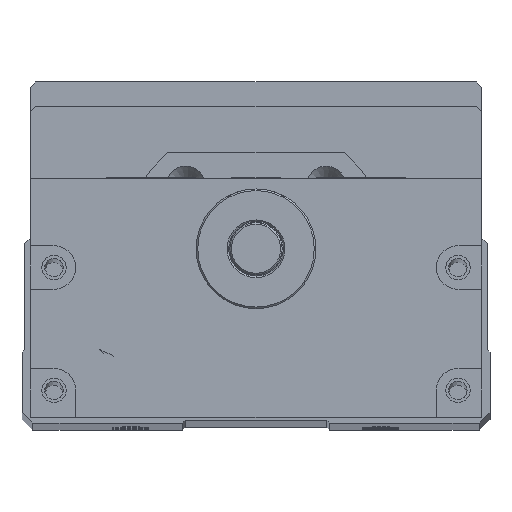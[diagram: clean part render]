
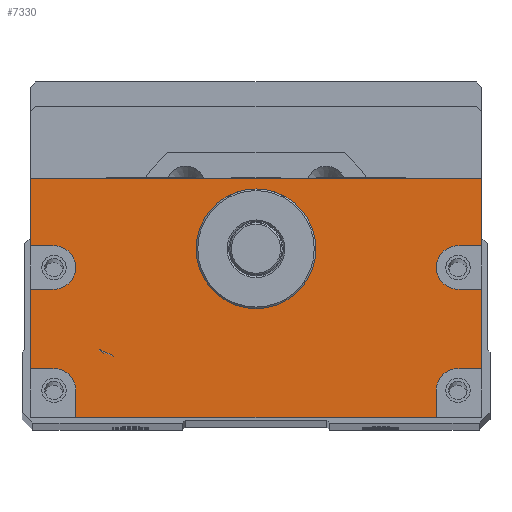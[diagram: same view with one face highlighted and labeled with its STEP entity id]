
A CAD part, top view. The second image highlights one B-rep face of the part: STEP entity #7330.
In plain terms, the highlighted planar face has unit normal (0, 0, 1).
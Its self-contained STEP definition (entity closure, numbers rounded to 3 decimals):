
#578=LINE('',#28951,#1321);
#580=LINE('',#28955,#1323);
#581=LINE('',#28958,#1324);
#582=LINE('',#28960,#1325);
#583=LINE('',#28964,#1326);
#584=LINE('',#28966,#1327);
#585=LINE('',#28967,#1328);
#586=LINE('',#28969,#1329);
#587=LINE('',#28973,#1330);
#588=LINE('',#28975,#1331);
#589=LINE('',#28977,#1332);
#590=LINE('',#28981,#1333);
#591=LINE('',#28983,#1334);
#592=LINE('',#28985,#1335);
#1321=VECTOR('',#17357,1.);
#1323=VECTOR('',#17361,1.);
#1324=VECTOR('',#17362,1.);
#1325=VECTOR('',#17363,1.);
#1326=VECTOR('',#17366,1.);
#1327=VECTOR('',#17367,1.);
#1328=VECTOR('',#17368,1.);
#1329=VECTOR('',#17369,1.);
#1330=VECTOR('',#17372,1.);
#1331=VECTOR('',#17373,1.);
#1332=VECTOR('',#17374,1.);
#1333=VECTOR('',#17377,1.);
#1334=VECTOR('',#17378,1.);
#1335=VECTOR('',#17379,1.);
#7330=ADVANCED_FACE('',(#8268,#8269),#7856,.T.);
#7856=PLANE('',#15776);
#8268=FACE_BOUND('',#8906,.T.);
#8269=FACE_BOUND('',#8907,.T.);
#8906=EDGE_LOOP('',(#10456,#10457,#10458,#10459,#10460,#10461,#10462,#10463,
#10464,#10465,#10466,#10467,#10468,#10469,#10470,#10471,#10472,#10473));
#8907=EDGE_LOOP('',(#10474));
#10456=ORIENTED_EDGE('',*,*,#13991,.F.);
#10457=ORIENTED_EDGE('',*,*,#13992,.T.);
#10458=ORIENTED_EDGE('',*,*,#13993,.F.);
#10459=ORIENTED_EDGE('',*,*,#13994,.F.);
#10460=ORIENTED_EDGE('',*,*,#13995,.F.);
#10461=ORIENTED_EDGE('',*,*,#13996,.T.);
#10462=ORIENTED_EDGE('',*,*,#13989,.T.);
#10463=ORIENTED_EDGE('',*,*,#13997,.T.);
#10464=ORIENTED_EDGE('',*,*,#13998,.F.);
#10465=ORIENTED_EDGE('',*,*,#13999,.F.);
#10466=ORIENTED_EDGE('',*,*,#14000,.F.);
#10467=ORIENTED_EDGE('',*,*,#14001,.T.);
#10468=ORIENTED_EDGE('',*,*,#14002,.F.);
#10469=ORIENTED_EDGE('',*,*,#14003,.F.);
#10470=ORIENTED_EDGE('',*,*,#14004,.F.);
#10471=ORIENTED_EDGE('',*,*,#14005,.T.);
#10472=ORIENTED_EDGE('',*,*,#14006,.F.);
#10473=ORIENTED_EDGE('',*,*,#14007,.F.);
#10474=ORIENTED_EDGE('',*,*,#13975,.T.);
#12791=VERTEX_POINT('',#28922);
#12804=VERTEX_POINT('',#28950);
#12805=VERTEX_POINT('',#28952);
#12806=VERTEX_POINT('',#28956);
#12807=VERTEX_POINT('',#28957);
#12808=VERTEX_POINT('',#28959);
#12809=VERTEX_POINT('',#28961);
#12810=VERTEX_POINT('',#28963);
#12811=VERTEX_POINT('',#28965);
#12812=VERTEX_POINT('',#28968);
#12813=VERTEX_POINT('',#28970);
#12814=VERTEX_POINT('',#28972);
#12815=VERTEX_POINT('',#28974);
#12816=VERTEX_POINT('',#28976);
#12817=VERTEX_POINT('',#28978);
#12818=VERTEX_POINT('',#28980);
#12819=VERTEX_POINT('',#28982);
#12820=VERTEX_POINT('',#28984);
#12821=VERTEX_POINT('',#28986);
#13975=EDGE_CURVE('',#12791,#12791,#15132,.T.);
#13989=EDGE_CURVE('',#12805,#12804,#578,.T.);
#13991=EDGE_CURVE('',#12806,#12807,#580,.T.);
#13992=EDGE_CURVE('',#12806,#12808,#581,.T.);
#13993=EDGE_CURVE('',#12809,#12808,#582,.T.);
#13994=EDGE_CURVE('',#12810,#12809,#15141,.T.);
#13995=EDGE_CURVE('',#12811,#12810,#583,.T.);
#13996=EDGE_CURVE('',#12811,#12805,#584,.T.);
#13997=EDGE_CURVE('',#12804,#12812,#585,.T.);
#13998=EDGE_CURVE('',#12813,#12812,#586,.T.);
#13999=EDGE_CURVE('',#12814,#12813,#15142,.T.);
#14000=EDGE_CURVE('',#12815,#12814,#587,.T.);
#14001=EDGE_CURVE('',#12815,#12816,#588,.T.);
#14002=EDGE_CURVE('',#12817,#12816,#589,.T.);
#14003=EDGE_CURVE('',#12818,#12817,#15143,.T.);
#14004=EDGE_CURVE('',#12819,#12818,#590,.T.);
#14005=EDGE_CURVE('',#12819,#12820,#591,.T.);
#14006=EDGE_CURVE('',#12821,#12820,#592,.T.);
#14007=EDGE_CURVE('',#12807,#12821,#15144,.T.);
#15132=CIRCLE('',#15760,11.);
#15141=CIRCLE('',#15772,4.);
#15142=CIRCLE('',#15773,4.);
#15143=CIRCLE('',#15774,4.);
#15144=CIRCLE('',#15775,4.);
#15760=AXIS2_PLACEMENT_3D('',#28921,#17330,#17331);
#15772=AXIS2_PLACEMENT_3D('',#28962,#17364,#17365);
#15773=AXIS2_PLACEMENT_3D('',#28971,#17370,#17371);
#15774=AXIS2_PLACEMENT_3D('',#28979,#17375,#17376);
#15775=AXIS2_PLACEMENT_3D('',#28987,#17380,#17381);
#15776=AXIS2_PLACEMENT_3D('',#28988,#17382,#17383);
#17330=DIRECTION('',(0.,0.,-1.));
#17331=DIRECTION('',(1.,0.,0.));
#17357=DIRECTION('',(-1.,0.,0.));
#17361=DIRECTION('',(-1.,0.,0.));
#17362=DIRECTION('',(0.,1.,0.));
#17363=DIRECTION('',(1.,0.,0.));
#17364=DIRECTION('',(0.,0.,1.));
#17365=DIRECTION('',(1.,0.,0.));
#17366=DIRECTION('',(-1.,0.,0.));
#17367=DIRECTION('',(0.,1.,0.));
#17368=DIRECTION('',(0.,-1.,0.));
#17369=DIRECTION('',(-1.,0.,0.));
#17370=DIRECTION('',(0.,0.,1.));
#17371=DIRECTION('',(1.,0.,0.));
#17372=DIRECTION('',(1.,0.,0.));
#17373=DIRECTION('',(0.,-1.,0.));
#17374=DIRECTION('',(-1.,0.,0.));
#17375=DIRECTION('',(0.,0.,1.));
#17376=DIRECTION('',(1.,0.,0.));
#17377=DIRECTION('',(0.,1.,0.));
#17378=DIRECTION('',(1.,0.,0.));
#17379=DIRECTION('',(0.,-1.,0.));
#17380=DIRECTION('',(0.,0.,1.));
#17381=DIRECTION('',(1.,0.,0.));
#17382=DIRECTION('',(0.,0.,1.));
#17383=DIRECTION('',(-1.,0.,0.));
#28921=CARTESIAN_POINT('',(150.,0.,582.5));
#28922=CARTESIAN_POINT('',(161.,0.,582.5));
#28950=CARTESIAN_POINT('',(108.5,13.,582.5));
#28951=CARTESIAN_POINT('',(191.5,13.,582.5));
#28952=CARTESIAN_POINT('',(191.5,13.,582.5));
#28955=CARTESIAN_POINT('',(191.5,-22.,582.5));
#28956=CARTESIAN_POINT('',(191.5,-22.,582.5));
#28957=CARTESIAN_POINT('',(187.115,-22.,582.5));
#28958=CARTESIAN_POINT('',(191.5,-31.,582.5));
#28959=CARTESIAN_POINT('',(191.5,-7.431,582.5));
#28960=CARTESIAN_POINT('',(191.5,-7.431,582.5));
#28961=CARTESIAN_POINT('',(187.115,-7.431,582.5));
#28962=CARTESIAN_POINT('',(187.115,-3.431,582.5));
#28963=CARTESIAN_POINT('',(187.115,0.569,582.5));
#28964=CARTESIAN_POINT('',(191.5,0.569,582.5));
#28965=CARTESIAN_POINT('',(191.5,0.569,582.5));
#28966=CARTESIAN_POINT('',(191.5,-31.,582.5));
#28967=CARTESIAN_POINT('',(108.5,27.5,582.5));
#28968=CARTESIAN_POINT('',(108.5,0.569,582.5));
#28969=CARTESIAN_POINT('',(191.5,0.569,582.5));
#28970=CARTESIAN_POINT('',(112.885,0.569,582.5));
#28971=CARTESIAN_POINT('',(112.885,-3.431,582.5));
#28972=CARTESIAN_POINT('',(112.885,-7.431,582.5));
#28973=CARTESIAN_POINT('',(191.5,-7.431,582.5));
#28974=CARTESIAN_POINT('',(108.5,-7.431,582.5));
#28975=CARTESIAN_POINT('',(108.5,27.5,582.5));
#28976=CARTESIAN_POINT('',(108.5,-22.,582.5));
#28977=CARTESIAN_POINT('',(191.5,-22.,582.5));
#28978=CARTESIAN_POINT('',(112.885,-22.,582.5));
#28979=CARTESIAN_POINT('',(112.885,-26.,582.5));
#28980=CARTESIAN_POINT('',(116.885,-26.,582.5));
#28981=CARTESIAN_POINT('',(116.885,-31.,582.5));
#28982=CARTESIAN_POINT('',(116.885,-31.,582.5));
#28983=CARTESIAN_POINT('',(108.5,-31.,582.5));
#28984=CARTESIAN_POINT('',(183.115,-31.,582.5));
#28985=CARTESIAN_POINT('',(183.115,-31.,582.5));
#28986=CARTESIAN_POINT('',(183.115,-26.,582.5));
#28987=CARTESIAN_POINT('',(187.115,-26.,582.5));
#28988=CARTESIAN_POINT('',(191.5,-31.,582.5));
